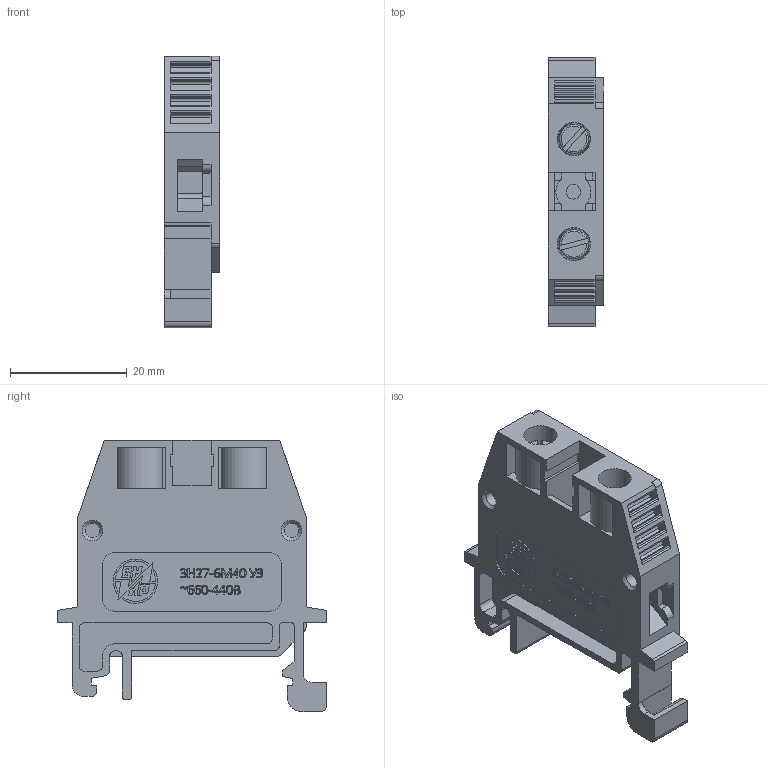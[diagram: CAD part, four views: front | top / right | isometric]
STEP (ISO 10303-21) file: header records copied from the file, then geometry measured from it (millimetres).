
FILE_DESCRIPTION(('STEP AP214'), '1');
FILE_NAME('ÇÍ27-6Ì40 ñ êðûøêîé ÊÒ2 (äëÿ çàêàç÷èêà)', '2023-08-03T07:21:55', (''), (''), 'ASCON STEP Converter 1.6', 'ASCON Math Kernel', '');
FILE_SCHEMA(('AUTOMOTIVE_DESIGN { 1 0 10303 214 3 1 1}'));
Length unit declared in the file: millimetre
Bounding box: 9.5 x 46 x 46.4 mm (x, y, z)
Volume: 7997.5 mm3; surface area: 11214.1 mm2
Topology: 3 solids, 85 shells, 3955 faces, 11905 edges, 8084 vertices
Faces by surface type: plane 3006, cylinder 933, torus 12, cone 4
Full cylindrical faces by diameter (mm): 2.5 x1, 2.52 x2, 3.3 x4, 3.5 x2, 4 x2, 4.1 x2, 5.7 x2
Entity records: 164801 total; most frequent: CARTESIAN_POINT 24412, ORIENTED_EDGE 23292, DIRECTION 21726, EDGE_CURVE 11880, LINE 9850, VECTOR 9850, VERTEX_POINT 8084, AXIS2_PLACEMENT_3D 5938
